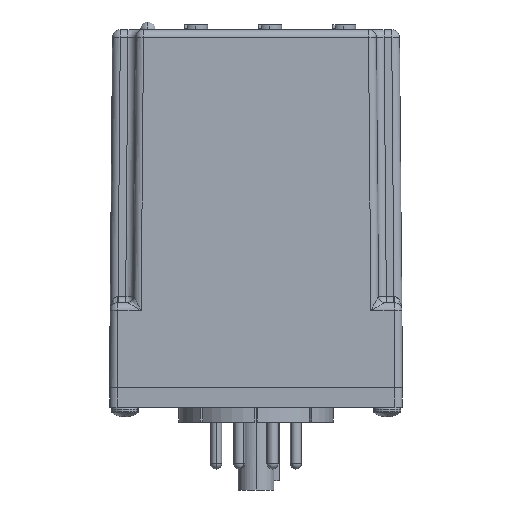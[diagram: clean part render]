
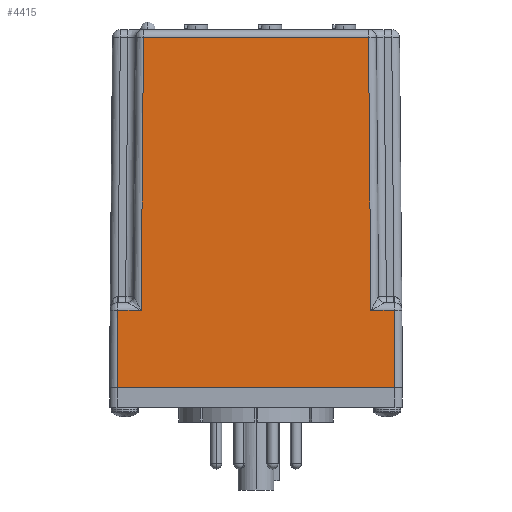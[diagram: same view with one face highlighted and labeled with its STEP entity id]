
A CAD part, left-side view. The second image highlights one B-rep face of the part: STEP entity #4415.
In plain terms, the highlighted planar face has unit normal (-1, 0, 0.009).
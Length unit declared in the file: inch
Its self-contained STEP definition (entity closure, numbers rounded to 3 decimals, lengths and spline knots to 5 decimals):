
#189 = VECTOR ( 'NONE', #6369, 39.37008 ) ;
#1874 = LINE ( 'NONE', #33917, #2950 ) ;
#2823 = ORIENTED_EDGE ( 'NONE', *, *, #19762, .T. ) ;
#2866 = ORIENTED_EDGE ( 'NONE', *, *, #23323, .T. ) ;
#2950 = VECTOR ( 'NONE', #12387, 39.37008 ) ;
#3183 = DIRECTION ( 'NONE',  ( 0., 1., 0. ) ) ;
#3909 = DIRECTION ( 'NONE',  ( 0., -1., 0. ) ) ;
#3933 = LINE ( 'NONE', #9269, #32193 ) ;
#4415 = ADVANCED_FACE ( 'NONE', ( #19184 ), #10304, .T. ) ;
#5646 = EDGE_CURVE ( 'NONE', #33603, #25094, #1874, .T. ) ;
#6369 = DIRECTION ( 'NONE',  ( 0., 1., 0. ) ) ;
#6529 = CARTESIAN_POINT ( 'NONE',  ( -0.86954, 1.1185, 0.62555 ) ) ;
#7055 = ORIENTED_EDGE ( 'NONE', *, *, #28892, .T. ) ;
#7265 = EDGE_LOOP ( 'NONE', ( #7055, #18946, #26318, #2823, #2866, #9432, #9595, #27584 ) ) ;
#8749 = EDGE_CURVE ( 'NONE', #17480, #10470, #19286, .T. ) ;
#9199 = CARTESIAN_POINT ( 'NONE',  ( -0.86954, 1.11904, 0.62555 ) ) ;
#9269 = CARTESIAN_POINT ( 'NONE',  ( -0.85024, 0.91119, 2.83755 ) ) ;
#9432 = ORIENTED_EDGE ( 'NONE', *, *, #29064, .T. ) ;
#9595 = ORIENTED_EDGE ( 'NONE', *, *, #5646, .T. ) ;
#10304 = PLANE ( 'NONE',  #20613 ) ;
#10470 = VERTEX_POINT ( 'NONE', #9199 ) ;
#11082 = DIRECTION ( 'NONE',  ( -1., 0., 0.009 ) ) ;
#11162 = LINE ( 'NONE', #30107, #28145 ) ;
#11794 = CARTESIAN_POINT ( 'NONE',  ( -0.86954, -1.11904, 0.62555 ) ) ;
#12149 = CARTESIAN_POINT ( 'NONE',  ( -0.85024, 0.91174, 2.83755 ) ) ;
#12387 = DIRECTION ( 'NONE',  ( 0.009, 0.009, 1. ) ) ;
#12531 = VERTEX_POINT ( 'NONE', #15908 ) ;
#12544 = DIRECTION ( 'NONE',  ( 0., 1., 0. ) ) ;
#12889 = CARTESIAN_POINT ( 'NONE',  ( -0.875, -1.1875, 0. ) ) ;
#13547 = CARTESIAN_POINT ( 'NONE',  ( -0.87484, 0.93634, 0.01853 ) ) ;
#14821 = LINE ( 'NONE', #28254, #15050 ) ;
#14976 = DIRECTION ( 'NONE',  ( -0.009, 0.009, -1. ) ) ;
#14993 = CARTESIAN_POINT ( 'NONE',  ( -0.875, -1.12451, -0.00055 ) ) ;
#15050 = VECTOR ( 'NONE', #25339, 39.37008 ) ;
#15908 = CARTESIAN_POINT ( 'NONE',  ( -0.875, 1.1245, 0. ) ) ;
#16491 = VERTEX_POINT ( 'NONE', #19656 ) ;
#17480 = VERTEX_POINT ( 'NONE', #29976 ) ;
#18061 = LINE ( 'NONE', #13547, #25986 ) ;
#18199 = DIRECTION ( 'NONE',  ( 0.009, 0., 1. ) ) ;
#18233 = VECTOR ( 'NONE', #3183, 39.37008 ) ;
#18946 = ORIENTED_EDGE ( 'NONE', *, *, #8749, .T. ) ;
#19184 = FACE_OUTER_BOUND ( 'NONE', #7265, .T. ) ;
#19286 = LINE ( 'NONE', #6529, #189 ) ;
#19656 = CARTESIAN_POINT ( 'NONE',  ( -0.875, -1.1245, 0. ) ) ;
#19762 = EDGE_CURVE ( 'NONE', #12531, #16491, #11162, .T. ) ;
#20613 = AXIS2_PLACEMENT_3D ( 'NONE', #12889, #11082, #18199 ) ;
#23323 = EDGE_CURVE ( 'NONE', #16491, #28132, #33424, .T. ) ;
#23363 = EDGE_CURVE ( 'NONE', #10470, #12531, #14821, .T. ) ;
#24386 = CARTESIAN_POINT ( 'NONE',  ( -0.86954, -0.9305, 0.62555 ) ) ;
#25094 = VERTEX_POINT ( 'NONE', #30230 ) ;
#25339 = DIRECTION ( 'NONE',  ( -0.009, 0.009, -1. ) ) ;
#25986 = VECTOR ( 'NONE', #14976, 39.37008 ) ;
#26129 = VERTEX_POINT ( 'NONE', #12149 ) ;
#26318 = ORIENTED_EDGE ( 'NONE', *, *, #23363, .T. ) ;
#26963 = LINE ( 'NONE', #24386, #18233 ) ;
#27364 = EDGE_CURVE ( 'NONE', #25094, #26129, #3933, .T. ) ;
#27584 = ORIENTED_EDGE ( 'NONE', *, *, #27364, .T. ) ;
#27687 = VECTOR ( 'NONE', #33595, 39.37008 ) ;
#28132 = VERTEX_POINT ( 'NONE', #11794 ) ;
#28145 = VECTOR ( 'NONE', #3909, 39.37008 ) ;
#28254 = CARTESIAN_POINT ( 'NONE',  ( -0.87482, 1.12433, 0.02017 ) ) ;
#28892 = EDGE_CURVE ( 'NONE', #26129, #17480, #18061, .T. ) ;
#29064 = EDGE_CURVE ( 'NONE', #28132, #33603, #26963, .T. ) ;
#29976 = CARTESIAN_POINT ( 'NONE',  ( -0.86954, 0.93104, 0.62555 ) ) ;
#30107 = CARTESIAN_POINT ( 'NONE',  ( -0.875, -1.1875, 0. ) ) ;
#30230 = CARTESIAN_POINT ( 'NONE',  ( -0.85024, -0.91174, 2.83755 ) ) ;
#32193 = VECTOR ( 'NONE', #12544, 39.37008 ) ;
#33424 = LINE ( 'NONE', #14993, #27687 ) ;
#33595 = DIRECTION ( 'NONE',  ( 0.009, 0.009, 1. ) ) ;
#33603 = VERTEX_POINT ( 'NONE', #34008 ) ;
#33917 = CARTESIAN_POINT ( 'NONE',  ( -0.87502, -0.93652, -0.00219 ) ) ;
#34008 = CARTESIAN_POINT ( 'NONE',  ( -0.86954, -0.93104, 0.62555 ) ) ;
